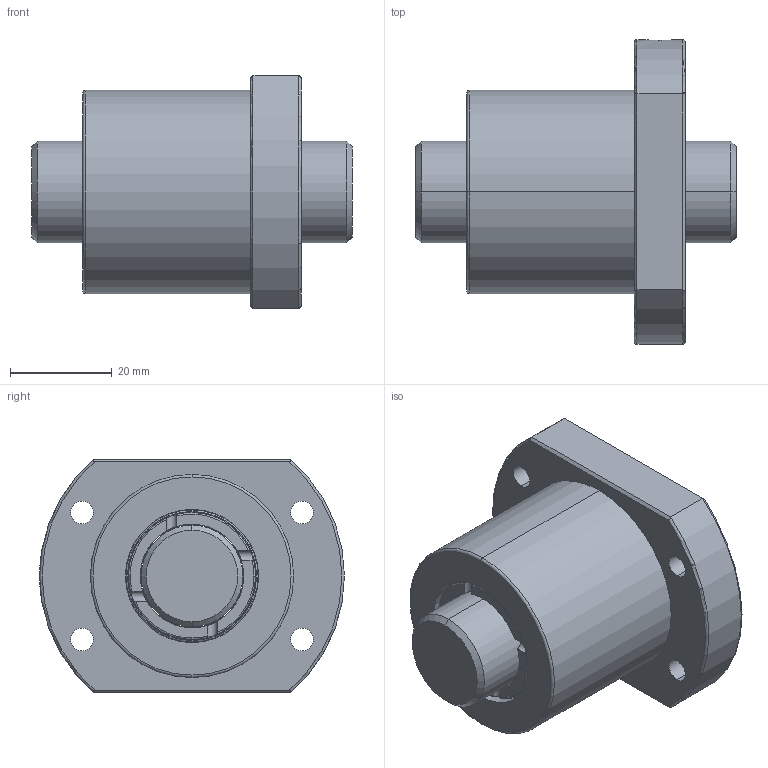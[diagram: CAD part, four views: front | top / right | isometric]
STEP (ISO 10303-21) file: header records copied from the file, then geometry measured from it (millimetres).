
FILE_DESCRIPTION (( 'STEP AP203' ), '1' );
FILE_NAME ('SFBR02005T3D.STEP', '2020-06-17T09:00:16', ( '' ), ( '' ), 'SwSTEP 2.0', 'SolidWorks 2013', '' );
FILE_SCHEMA (( 'CONFIG_CONTROL_DESIGN' ));
Length unit declared in the file: millimetre
Products named in the file (1): SFBR02005T3D
Bounding box: 63 x 60 x 46 mm (x, y, z)
Volume: 69219.2 mm3; surface area: 20305.9 mm2
Topology: 2 solids, 2 shells, 106 faces, 274 edges, 176 vertices
Faces by surface type: cylinder 50, torus 26, plane 26, cone 4
Entity records: 4149 total; most frequent: CARTESIAN_POINT 1467, DIRECTION 558, ORIENTED_EDGE 548, EDGE_CURVE 274, AXIS2_PLACEMENT_3D 245, VERTEX_POINT 176, CIRCLE 138, EDGE_LOOP 124
